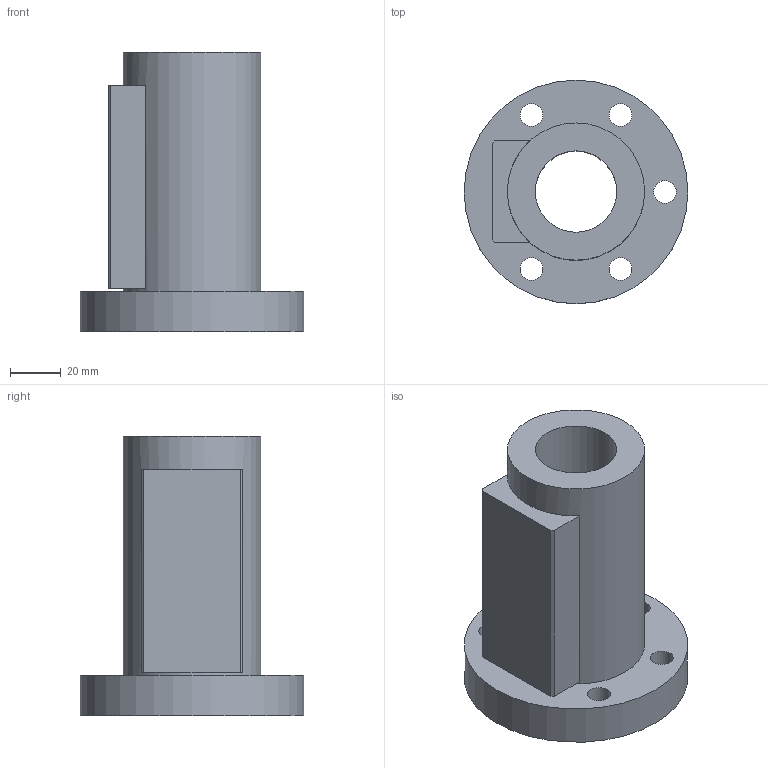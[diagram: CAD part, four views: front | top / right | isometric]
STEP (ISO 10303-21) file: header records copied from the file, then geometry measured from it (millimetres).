
FILE_DESCRIPTION(/* description */ (''),/* implementation_level */ '2;1');
FILE_NAME(/* name */ '32-32A1',/* time_stamp */ '2006-07-31T10:10:52+08:00',/* author */ (''),/* organization */ (''),/* preprocessor_version */ 'ST-DEVELOPER v9',/* originating_system */ 'UGS - NX 4.0',/* authorisation */ '');
FILE_SCHEMA (('CONFIG_CONTROL_DESIGN'));
Length unit declared in the file: millimetre
Products named in the file (1): 32-32A1
Bounding box: 88 x 88 x 110 mm (x, y, z)
Volume: 243049.2 mm3; surface area: 46854.4 mm2
Topology: 1 solids, 1 shells, 28 faces, 61 edges, 42 vertices
Faces by surface type: plane 15, cylinder 13
Full cylindrical faces by diameter (mm): 9 x5, 14 x5, 32 x1, 54 x1, 88 x1
Entity records: 794 total; most frequent: DIRECTION 130, CARTESIAN_POINT 111, ORIENTED_EDGE 88, EDGE_LOOP 60, AXIS2_PLACEMENT_3D 57, FACE_BOUND 45, EDGE_CURVE 44, VERTEX_POINT 38
